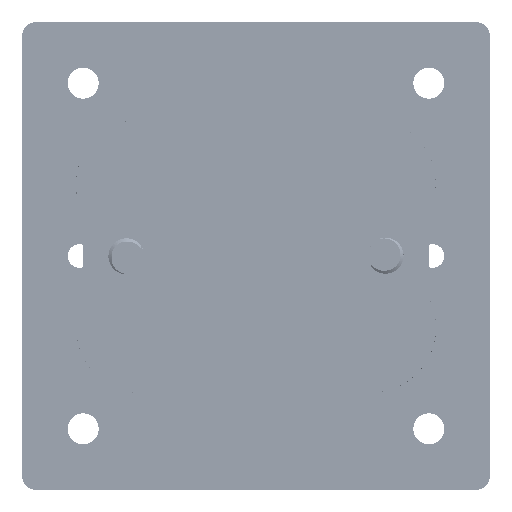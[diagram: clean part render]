
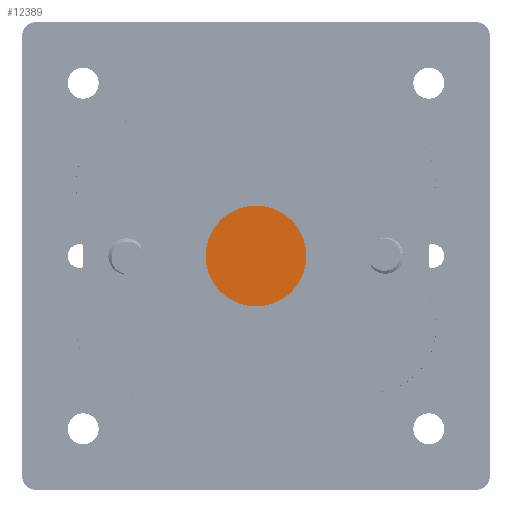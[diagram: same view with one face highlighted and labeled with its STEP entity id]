
A CAD part, front view. The second image highlights one B-rep face of the part: STEP entity #12389.
In plain terms, the highlighted planar face has unit normal (0, -1, 0).
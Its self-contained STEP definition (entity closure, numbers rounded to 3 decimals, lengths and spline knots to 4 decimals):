
#11015=FACE_OUTER_BOUND('',#15208,.T.);
#12389=ADVANCED_FACE('',(#11015),#13675,.T.);
#13675=PLANE('',#37709);
#15208=EDGE_LOOP('',(#19722));
#16707=CIRCLE('',#37707,7.);
#19722=ORIENTED_EDGE('',*,*,#28947,.F.);
#26001=VERTEX_POINT('',#66952);
#28947=EDGE_CURVE('',#26001,#26001,#16707,.T.);
#37707=AXIS2_PLACEMENT_3D('',#66951,#41476,#41477);
#37709=AXIS2_PLACEMENT_3D('',#66954,#41480,#41481);
#41476=DIRECTION('',(0.,1.,0.));
#41477=DIRECTION('',(-1.,0.,-0.003));
#41480=DIRECTION('',(0.,-1.,0.));
#41481=DIRECTION('',(0.,0.,-1.));
#66951=CARTESIAN_POINT('',(0.,-107.1,0.));
#66952=CARTESIAN_POINT('',(-7.,-107.1,-0.018));
#66954=CARTESIAN_POINT('',(0.,-107.1,0.));
